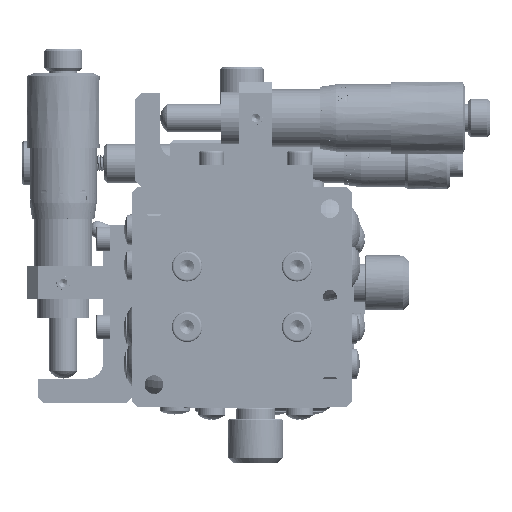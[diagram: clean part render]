
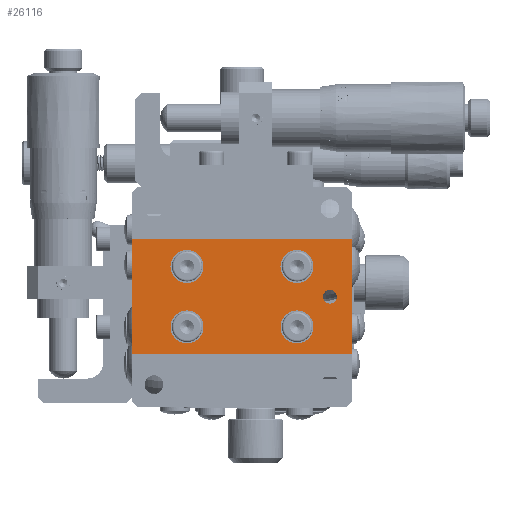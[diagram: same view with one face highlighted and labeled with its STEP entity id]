
A CAD part, front view. The second image highlights one B-rep face of the part: STEP entity #26116.
In plain terms, the highlighted planar face has unit normal (0, -1, 0).
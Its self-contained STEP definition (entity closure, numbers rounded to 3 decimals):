
#5597 = LINE ( 'NONE', #66591, #35755 ) ;
#6476 = DIRECTION ( 'NONE',  ( 1., 0., 0. ) ) ;
#17459 = CARTESIAN_POINT ( 'NONE',  ( 40., -39.5, -9.5 ) ) ;
#18074 = AXIS2_PLACEMENT_3D ( 'NONE', #63610, #83472, #86258 ) ;
#20088 = ORIENTED_EDGE ( 'NONE', *, *, #68870, .F. ) ;
#22288 = EDGE_CURVE ( 'NONE', #241788, #241788, #194685, .T. ) ;
#23776 = FACE_BOUND ( 'NONE', #273657, .T. ) ;
#24546 = CARTESIAN_POINT ( 'NONE',  ( 10., -39.5, -25.5 ) ) ;
#25841 = EDGE_CURVE ( 'NONE', #254025, #254025, #113960, .T. ) ;
#26116 = ADVANCED_FACE ( 'NONE', ( #151350, #171208, #112993, #155518, #42276, #23776 ), #257694, .F. ) ;
#26347 = CARTESIAN_POINT ( 'NONE',  ( 13., -39.5, -25.5 ) ) ;
#26997 = DIRECTION ( 'NONE',  ( 1., 0., 0. ) ) ;
#35755 = VECTOR ( 'NONE', #222377, 1000. ) ;
#36071 = EDGE_LOOP ( 'NONE', ( #197611 ) ) ;
#36826 = CARTESIAN_POINT ( 'NONE',  ( 0., -39.5, -30.5 ) ) ;
#39837 = VERTEX_POINT ( 'NONE', #17459 ) ;
#42276 = FACE_BOUND ( 'NONE', #36071, .T. ) ;
#43127 = ORIENTED_EDGE ( 'NONE', *, *, #96878, .F. ) ;
#44031 = DIRECTION ( 'NONE',  ( 1., 0., 0. ) ) ;
#44536 = CARTESIAN_POINT ( 'NONE',  ( 33., -39.5, -14.5 ) ) ;
#45473 = CARTESIAN_POINT ( 'NONE',  ( 30., -39.5, -25.5 ) ) ;
#47844 = CARTESIAN_POINT ( 'NONE',  ( 0., -39.5, -9.5 ) ) ;
#52286 = VECTOR ( 'NONE', #6476, 1000. ) ;
#53179 = LINE ( 'NONE', #247368, #52286 ) ;
#62877 = EDGE_CURVE ( 'NONE', #218269, #39837, #87509, .T. ) ;
#63385 = CIRCLE ( 'NONE', #18074, 3. ) ;
#63610 = CARTESIAN_POINT ( 'NONE',  ( 10., -39.5, -14.5 ) ) ;
#66591 = CARTESIAN_POINT ( 'NONE',  ( 0., -39.5, -9.5 ) ) ;
#68870 = EDGE_CURVE ( 'NONE', #209845, #273664, #249681, .T. ) ;
#69066 = DIRECTION ( 'NONE',  ( 1., 0., 0. ) ) ;
#72559 = CARTESIAN_POINT ( 'NONE',  ( 0., -39.5, -9.5 ) ) ;
#73318 = AXIS2_PLACEMENT_3D ( 'NONE', #117522, #120342, #181268 ) ;
#76518 = AXIS2_PLACEMENT_3D ( 'NONE', #129062, #191416, #44031 ) ;
#83472 = DIRECTION ( 'NONE',  ( 0., -1., 0. ) ) ;
#85660 = VERTEX_POINT ( 'NONE', #44536 ) ;
#86258 = DIRECTION ( 'NONE',  ( 1., 0., 0. ) ) ;
#87509 = LINE ( 'NONE', #236390, #274084 ) ;
#87976 = DIRECTION ( 'NONE',  ( 0., -1., 0. ) ) ;
#91355 = ORIENTED_EDGE ( 'NONE', *, *, #25841, .T. ) ;
#96878 = EDGE_CURVE ( 'NONE', #122944, #122944, #106535, .T. ) ;
#106535 = CIRCLE ( 'NONE', #188023, 3. ) ;
#110964 = DIRECTION ( 'NONE',  ( 0., -1., 0. ) ) ;
#111124 = ORIENTED_EDGE ( 'NONE', *, *, #246779, .F. ) ;
#112993 = FACE_BOUND ( 'NONE', #120494, .T. ) ;
#113960 = CIRCLE ( 'NONE', #73318, 1.25 ) ;
#117522 = CARTESIAN_POINT ( 'NONE',  ( 36., -39.5, -20. ) ) ;
#120342 = DIRECTION ( 'NONE',  ( 0., 1., 0. ) ) ;
#120494 = EDGE_LOOP ( 'NONE', ( #43127 ) ) ;
#122944 = VERTEX_POINT ( 'NONE', #145604 ) ;
#129062 = CARTESIAN_POINT ( 'NONE',  ( 30., -39.5, -14.5 ) ) ;
#130751 = EDGE_CURVE ( 'NONE', #209845, #218269, #53179, .T. ) ;
#132806 = DIRECTION ( 'NONE',  ( 0., 0., 1. ) ) ;
#139022 = EDGE_CURVE ( 'NONE', #85660, #85660, #144518, .T. ) ;
#140462 = EDGE_LOOP ( 'NONE', ( #263314, #170716, #20088, #256859 ) ) ;
#143331 = DIRECTION ( 'NONE',  ( 0., 0., 1. ) ) ;
#144518 = CIRCLE ( 'NONE', #76518, 3. ) ;
#144671 = VERTEX_POINT ( 'NONE', #231142 ) ;
#145604 = CARTESIAN_POINT ( 'NONE',  ( 33., -39.5, -25.5 ) ) ;
#151350 = FACE_BOUND ( 'NONE', #243466, .T. ) ;
#155518 = FACE_OUTER_BOUND ( 'NONE', #140462, .T. ) ;
#161450 = VECTOR ( 'NONE', #143331, 1000. ) ;
#163248 = DIRECTION ( 'NONE',  ( 1., 0., 0. ) ) ;
#163733 = AXIS2_PLACEMENT_3D ( 'NONE', #47844, #195221, #69066 ) ;
#170716 = ORIENTED_EDGE ( 'NONE', *, *, #275031, .F. ) ;
#171208 = FACE_BOUND ( 'NONE', #222893, .T. ) ;
#177507 = CARTESIAN_POINT ( 'NONE',  ( 0., -39.5, -9.5 ) ) ;
#181268 = DIRECTION ( 'NONE',  ( 1., 0., 0. ) ) ;
#188023 = AXIS2_PLACEMENT_3D ( 'NONE', #45473, #87976, #26997 ) ;
#191416 = DIRECTION ( 'NONE',  ( 0., -1., 0. ) ) ;
#194685 = CIRCLE ( 'NONE', #267204, 3. ) ;
#195221 = DIRECTION ( 'NONE',  ( 0., 1., 0. ) ) ;
#197611 = ORIENTED_EDGE ( 'NONE', *, *, #22288, .F. ) ;
#209845 = VERTEX_POINT ( 'NONE', #36826 ) ;
#211038 = ORIENTED_EDGE ( 'NONE', *, *, #139022, .F. ) ;
#216097 = CARTESIAN_POINT ( 'NONE',  ( 40., -39.5, -30.5 ) ) ;
#218269 = VERTEX_POINT ( 'NONE', #216097 ) ;
#222377 = DIRECTION ( 'NONE',  ( 1., 0., 0. ) ) ;
#222893 = EDGE_LOOP ( 'NONE', ( #111124 ) ) ;
#231142 = CARTESIAN_POINT ( 'NONE',  ( 13., -39.5, -14.5 ) ) ;
#236390 = CARTESIAN_POINT ( 'NONE',  ( 40., -39.5, -9.5 ) ) ;
#241788 = VERTEX_POINT ( 'NONE', #26347 ) ;
#243466 = EDGE_LOOP ( 'NONE', ( #91355 ) ) ;
#246779 = EDGE_CURVE ( 'NONE', #144671, #144671, #63385, .T. ) ;
#247368 = CARTESIAN_POINT ( 'NONE',  ( 0., -39.5, -30.5 ) ) ;
#249681 = LINE ( 'NONE', #72559, #161450 ) ;
#254025 = VERTEX_POINT ( 'NONE', #273914 ) ;
#256859 = ORIENTED_EDGE ( 'NONE', *, *, #130751, .T. ) ;
#257694 = PLANE ( 'NONE',  #163733 ) ;
#263314 = ORIENTED_EDGE ( 'NONE', *, *, #62877, .T. ) ;
#267204 = AXIS2_PLACEMENT_3D ( 'NONE', #24546, #110964, #163248 ) ;
#273657 = EDGE_LOOP ( 'NONE', ( #211038 ) ) ;
#273664 = VERTEX_POINT ( 'NONE', #177507 ) ;
#273914 = CARTESIAN_POINT ( 'NONE',  ( 37.25, -39.5, -20. ) ) ;
#274084 = VECTOR ( 'NONE', #132806, 1000. ) ;
#275031 = EDGE_CURVE ( 'NONE', #273664, #39837, #5597, .T. ) ;
